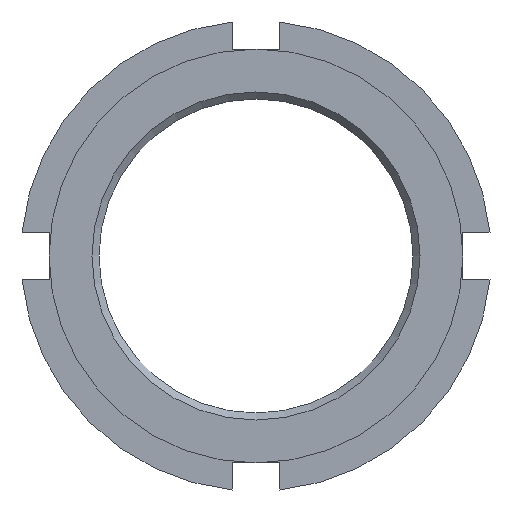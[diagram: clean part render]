
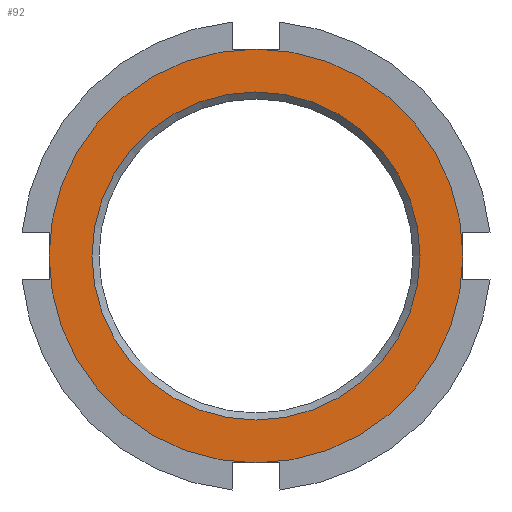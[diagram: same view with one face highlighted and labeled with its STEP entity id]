
A CAD part, left-side view. The second image highlights one B-rep face of the part: STEP entity #92.
In plain terms, the highlighted planar face has unit normal (-1, 0, 0).
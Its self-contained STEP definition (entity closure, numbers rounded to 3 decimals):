
#92 = ADVANCED_FACE( '', ( #150, #151 ), #152, .F. );
#150 = FACE_OUTER_BOUND( '', #228, .T. );
#151 = FACE_BOUND( '', #229, .T. );
#152 = PLANE( '', #230 );
#228 = EDGE_LOOP( '', ( #388 ) );
#229 = EDGE_LOOP( '', ( #389 ) );
#230 = AXIS2_PLACEMENT_3D( '', #390, #391, #392 );
#388 = ORIENTED_EDGE( '', *, *, #566, .F. );
#389 = ORIENTED_EDGE( '', *, *, #550, .T. );
#390 = CARTESIAN_POINT( '', ( 0., 0., 0. ) );
#391 = DIRECTION( '', ( 1., 0., 0. ) );
#392 = DIRECTION( '', ( 0., 0., -1. ) );
#550 = EDGE_CURVE( '', #656, #656, #657, .T. );
#566 = EDGE_CURVE( '', #680, #680, #681, .T. );
#656 = VERTEX_POINT( '', #841 );
#657 = CIRCLE( '', #842, 17.438 );
#680 = VERTEX_POINT( '', #890 );
#681 = CIRCLE( '', #891, 22. );
#841 = CARTESIAN_POINT( '', ( 0., 0., -17.438 ) );
#842 = AXIS2_PLACEMENT_3D( '', #971, #972, #973 );
#890 = CARTESIAN_POINT( '', ( 0., 0., -22. ) );
#891 = AXIS2_PLACEMENT_3D( '', #1002, #1003, #1004 );
#971 = CARTESIAN_POINT( '', ( 0., 0., 0. ) );
#972 = DIRECTION( '', ( 1., 0., 0. ) );
#973 = DIRECTION( '', ( 0., 0., -1. ) );
#1002 = CARTESIAN_POINT( '', ( 0., 0., 0. ) );
#1003 = DIRECTION( '', ( 1., 0., 0. ) );
#1004 = DIRECTION( '', ( 0., 0., -1. ) );
